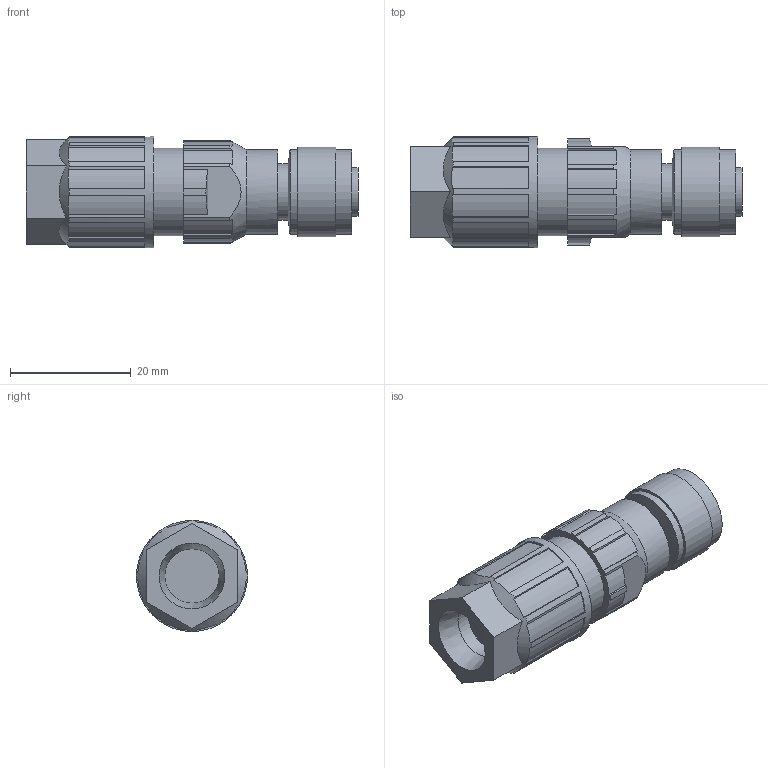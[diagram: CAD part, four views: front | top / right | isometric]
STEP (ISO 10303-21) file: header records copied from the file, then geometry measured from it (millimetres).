
FILE_DESCRIPTION(/* description */ ('STEP AP214'),/* implementation_level */ '2;1');
FILE_NAME(/* name */ 'P_MZ_SUV_0123',/* time_stamp */ '2023-03-03T11:01:20+01:00',/* author */ ('License CC BY-ND 4.0'),/* organization */ ('CADENAS'),/* preprocessor_version */ 'ST-DEVELOPER v18.102',/* originating_system */ 'PARTsolutions',/* authorisation */ ' ');
FILE_SCHEMA (('AUTOMOTIVE_DESIGN {1 0 10303 214 3 1 1}'));
Length unit declared in the file: millimetre
Products named in the file (1): P_MZ_SUV_0123
Bounding box: 55 x 18.4 x 18.4 mm (x, y, z)
Volume: 10016.3 mm3; surface area: 4118.8 mm2
Topology: 1 solids, 1 shells, 133 faces, 363 edges, 240 vertices
Faces by surface type: plane 84, cylinder 45, cone 4
Full cylindrical faces by diameter (mm): 9 x1, 9.3 x1, 10.917 x1, 14 x3, 14.5 x1, 14.8 x1, 18.4 x1
Entity records: 4240 total; most frequent: CARTESIAN_POINT 882, ORIENTED_EDGE 696, DIRECTION 684, EDGE_CURVE 348, AXIS2_PLACEMENT_3D 248, VERTEX_POINT 238, LINE 188, VECTOR 188
